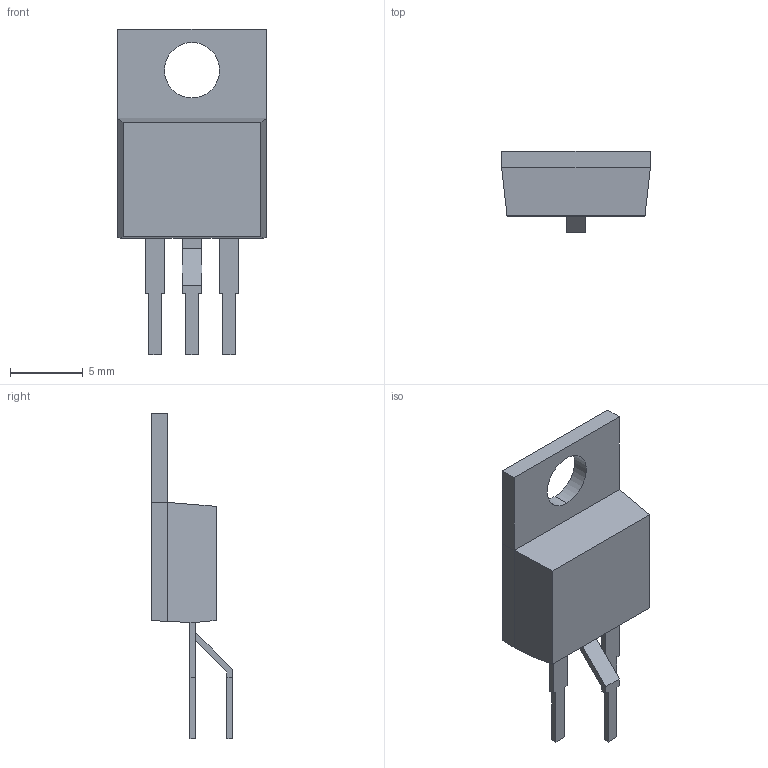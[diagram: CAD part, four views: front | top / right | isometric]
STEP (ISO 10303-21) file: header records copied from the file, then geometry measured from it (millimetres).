
FILE_DESCRIPTION(('FreeCAD Model'),'2;1');
FILE_NAME('D:/Documents/KiCAD_proj/_Kicad_User_Lib/3dmodels\User Library-TPH3212_2.54MM_CENTRAL.step','2021-03-21T13:23:48',( 'kicad StepUp'),('ksu MCAD'),'Open CASCADE STEP processor 7.2', 'FreeCAD','Unknown');
FILE_SCHEMA(('AUTOMOTIVE_DESIGN { 1 0 10303 214 1 1 1 1 }'));
Length unit declared in the file: millimetre
Products named in the file (1): User_Library-TPH3212_2.54MM_CENTRAL
Bounding box: 10.24 x 5.59 x 22.39 mm (x, y, z)
Volume: 427.8 mm3; surface area: 523.8 mm2
Topology: 1 solids, 1 shells, 65 faces, 161 edges, 98 vertices
Faces by surface type: plane 63, cylinder 2
Entity records: 2328 total; most frequent: CARTESIAN_POINT 325, ORIENTED_EDGE 322, DIRECTION 297, EDGE_CURVE 161, LINE 157, VECTOR 157, VERTEX_POINT 98, AXIS2_PLACEMENT_3D 70
